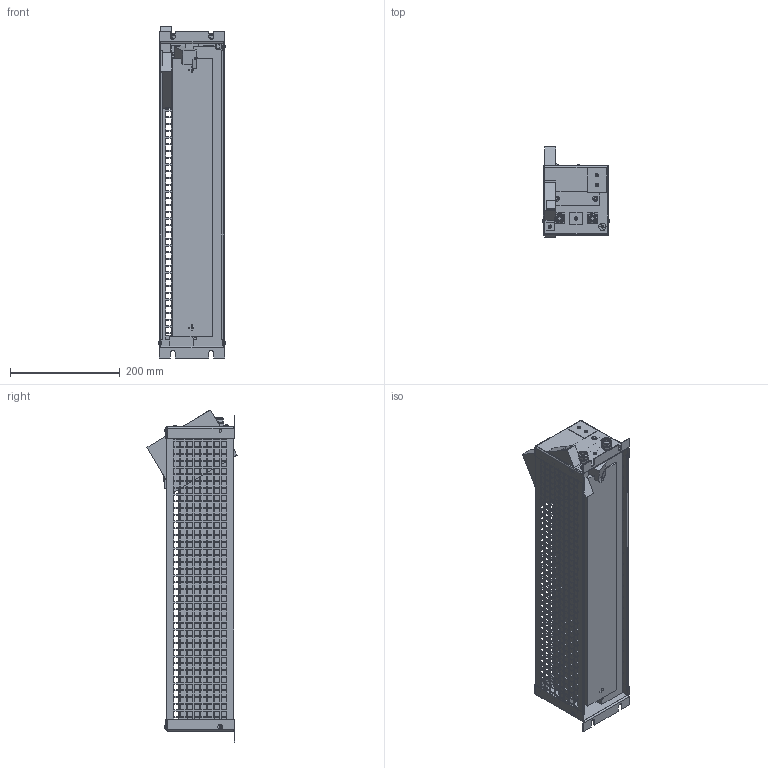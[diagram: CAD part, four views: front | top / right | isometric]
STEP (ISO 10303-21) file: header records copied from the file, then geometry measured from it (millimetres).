
FILE_DESCRIPTION(/* description */ (''),/* implementation_level */ '2;1');
FILE_NAME(/* name */ 'C:\_Vault\Dati\CATALOGO\RM\RM catalogo\RM catalogo\RM 01L-Esterno.stp',/* time_stamp */ '2021-11-30T10:05:38+01:00',/* author */ ('claudio'),/* organization */ (''),/* preprocessor_version */ 'ST-DEVELOPER v18.1',/* originating_system */ 'Autodesk Inventor 2022',/* authorisation */ '');
FILE_SCHEMA (('AUTOMOTIVE_DESIGN { 1 0 10303 214 3 1 1 }'));
Products named in the file (2): RM 01L-Catalogo; RM 01L-Esterno
Assembly tree (1 placements, depth 2):
  RM 01L-Catalogo
    RM 01L-Esterno
Bounding box: 123.2 x 164.34 x 605.45 mm (x, y, z)
Volume: 4270206.6 mm3; surface area: 562749.5 mm2
Topology: 1 solids, 13 shells, 4894 faces, 14389 edges, 9490 vertices
Faces by surface type: plane 4645, cylinder 158, cone 75, torus 16
Full cylindrical faces by diameter (mm): 3 x4, 3.2 x1, 3.242 x1, 4 x2, 4.8 x8, 4.92 x1, 5 x9, 6.3 x4, 9.6 x2, 9.8 x2, 11 x4, 11.6 x4, 13.86 x2, 15.2 x3, 15.5 x2, 17 x2
Entity records: 168529 total; most frequent: CARTESIAN_POINT 29102, ORIENTED_EDGE 28778, DIRECTION 24545, EDGE_CURVE 14389, LINE 13733, VECTOR 13733, VERTEX_POINT 9489, EDGE_LOOP 6978
